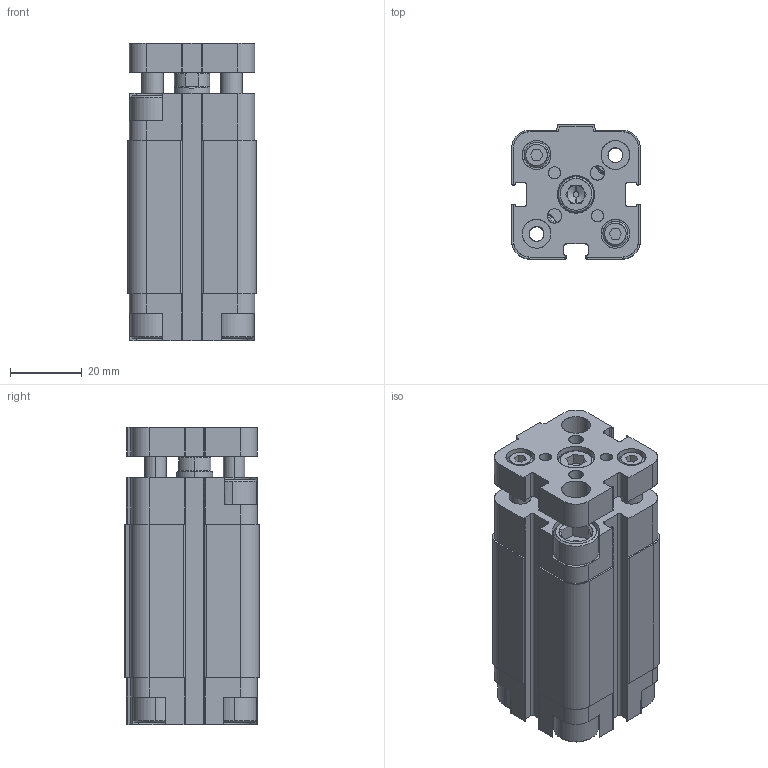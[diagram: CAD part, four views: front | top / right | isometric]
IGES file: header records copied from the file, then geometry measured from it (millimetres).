
Start section: SolidWorks IGES file using analytic representation for surfaces
Global section: file name: K:\Disegni Esecutivi\Cilindri\2_DISEGNI_cilindri_in_produzione\20_CILINDRO_ISO_21287\seconda versione cilindro 21287\2_CIL20\CPLX_20\3d_pieni\WFA020_PIENO\WFA0200030A.igs; native system: SolidWorks 2012; preprocessor: SolidWorks 2012; author: Cad01; date: 130420.113837; units: millimetre
Bounding box: 36 x 37.5 x 82.95 mm (x, y, z)
Surface area: 27808.3 mm2 (no closed solid volume)
Topology: 0 solids, 0 shells, 447 faces, 6121 edges, 6121 vertices
Faces by surface type: revolution 224, bspline 223
